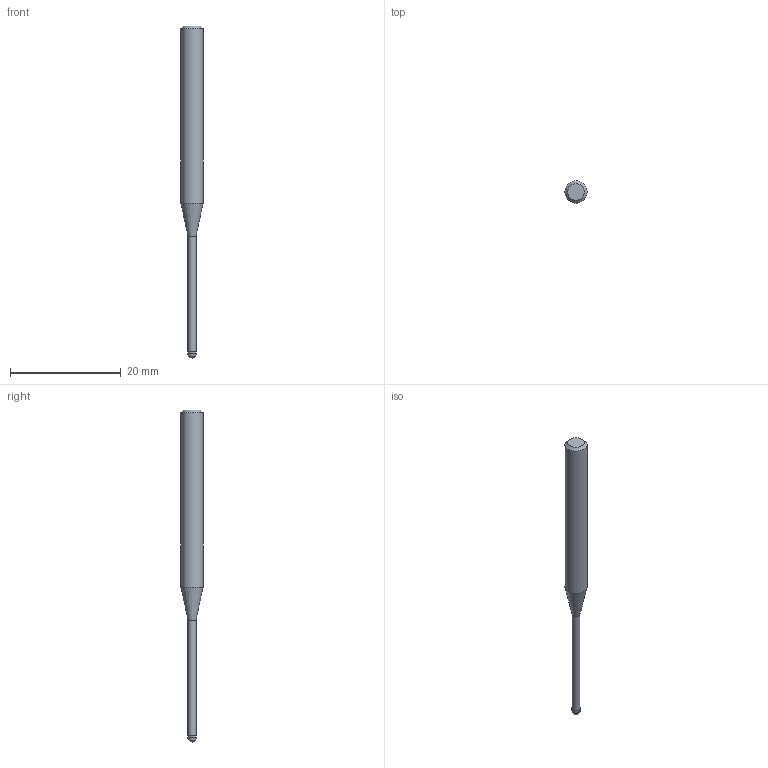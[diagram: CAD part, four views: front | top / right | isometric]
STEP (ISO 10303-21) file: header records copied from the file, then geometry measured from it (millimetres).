
FILE_DESCRIPTION((''),'2;1');
FILE_NAME('C:\Users\nsx150\AppData\Local\Temp\Mastercam 2021\ARV7HD45SN\TEMP.step','2023-06-13T16:36:39',(''),(''),'STEP Write','Mastercam 2021 ... CNC Software, Inc.','');
FILE_SCHEMA(('AUTOMOTIVE_DESIGN'));
Length unit declared in the file: millimetre
Products named in the file (1): None
Bounding box: 4 x 4 x 60 mm (x, y, z)
Volume: 474.3 mm3; surface area: 567 mm2
Topology: 2 solids, 2 shells, 9 faces, 14 edges, 8 vertices
Faces by surface type: plane 3, cylinder 3, cone 2, sphere 1
Full cylindrical faces by diameter (mm): 1.45 x1, 1.5 x1, 4 x1
Entity records: 211 total; most frequent: DIRECTION 36, CARTESIAN_POINT 25, AXIS2_PLACEMENT_3D 18, ORIENTED_EDGE 14, EDGE_LOOP 14, STYLED_ITEM 12, ADVANCED_FACE 9, FACE_BOUND 8
